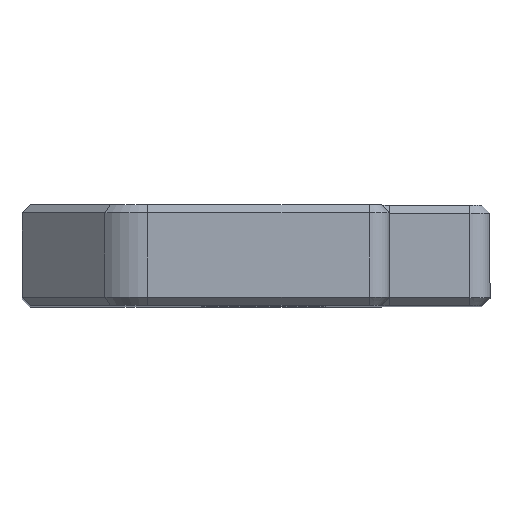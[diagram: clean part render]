
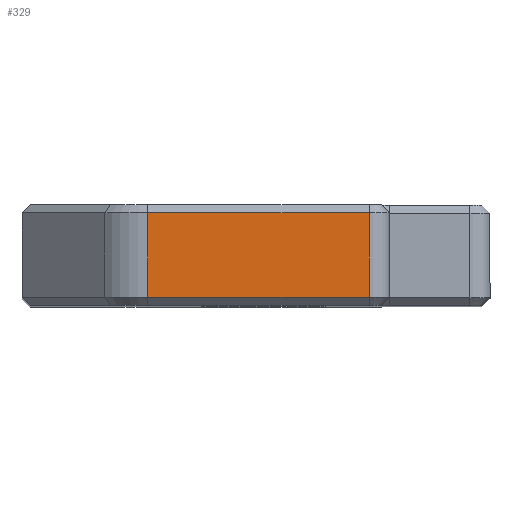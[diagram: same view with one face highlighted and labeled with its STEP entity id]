
A CAD part, top view. The second image highlights one B-rep face of the part: STEP entity #329.
In plain terms, the highlighted planar face has unit normal (0, 0, 1).
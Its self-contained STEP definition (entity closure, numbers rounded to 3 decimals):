
#45 = LINE ( 'NONE', #593, #1895 ) ;
#201 = CARTESIAN_POINT ( 'NONE',  ( 12.993, 2.1, 29. ) ) ;
#329 = ADVANCED_FACE ( 'NONE', ( #1584 ), #970, .T. ) ;
#474 = CARTESIAN_POINT ( 'NONE',  ( 24., 0., 29. ) ) ;
#593 = CARTESIAN_POINT ( 'NONE',  ( 24., -2.1, 29. ) ) ;
#594 = LINE ( 'NONE', #201, #2116 ) ;
#970 = PLANE ( 'NONE',  #1423 ) ;
#1018 = VERTEX_POINT ( 'NONE', #1453 ) ;
#1044 = VECTOR ( 'NONE', #2424, 1000. ) ;
#1084 = ORIENTED_EDGE ( 'NONE', *, *, #2509, .T. ) ;
#1112 = CARTESIAN_POINT ( 'NONE',  ( 12.993, 2.1, 29. ) ) ;
#1231 = EDGE_CURVE ( 'NONE', #2075, #2005, #45, .T. ) ;
#1234 = DIRECTION ( 'NONE',  ( -1., 0., 0. ) ) ;
#1423 = AXIS2_PLACEMENT_3D ( 'NONE', #2396, #1790, #2606 ) ;
#1443 = CARTESIAN_POINT ( 'NONE',  ( 12.993, -2.1, 29. ) ) ;
#1453 = CARTESIAN_POINT ( 'NONE',  ( 24., 2.1, 29. ) ) ;
#1549 = EDGE_LOOP ( 'NONE', ( #1084, #2447, #2179, #2169 ) ) ;
#1584 = FACE_OUTER_BOUND ( 'NONE', #1549, .T. ) ;
#1673 = LINE ( 'NONE', #474, #2241 ) ;
#1790 = DIRECTION ( 'NONE',  ( 0., 0., 1. ) ) ;
#1837 = LINE ( 'NONE', #2221, #1044 ) ;
#1874 = DIRECTION ( 'NONE',  ( 1., 0., 0. ) ) ;
#1876 = VERTEX_POINT ( 'NONE', #1112 ) ;
#1878 = DIRECTION ( 'NONE',  ( 0., 1., 0. ) ) ;
#1895 = VECTOR ( 'NONE', #1874, 1000. ) ;
#2005 = VERTEX_POINT ( 'NONE', #2359 ) ;
#2075 = VERTEX_POINT ( 'NONE', #1443 ) ;
#2116 = VECTOR ( 'NONE', #1234, 1000. ) ;
#2169 = ORIENTED_EDGE ( 'NONE', *, *, #2439, .T. ) ;
#2179 = ORIENTED_EDGE ( 'NONE', *, *, #2643, .T. ) ;
#2221 = CARTESIAN_POINT ( 'NONE',  ( 12.993, -2.5, 29. ) ) ;
#2241 = VECTOR ( 'NONE', #1878, 1000. ) ;
#2359 = CARTESIAN_POINT ( 'NONE',  ( 24., -2.1, 29. ) ) ;
#2396 = CARTESIAN_POINT ( 'NONE',  ( 0., 0., 29. ) ) ;
#2424 = DIRECTION ( 'NONE',  ( 0., -1., 0. ) ) ;
#2439 = EDGE_CURVE ( 'NONE', #1018, #1876, #594, .T. ) ;
#2447 = ORIENTED_EDGE ( 'NONE', *, *, #1231, .T. ) ;
#2509 = EDGE_CURVE ( 'NONE', #1876, #2075, #1837, .T. ) ;
#2606 = DIRECTION ( 'NONE',  ( 1., 0., 0. ) ) ;
#2643 = EDGE_CURVE ( 'NONE', #2005, #1018, #1673, .T. ) ;
